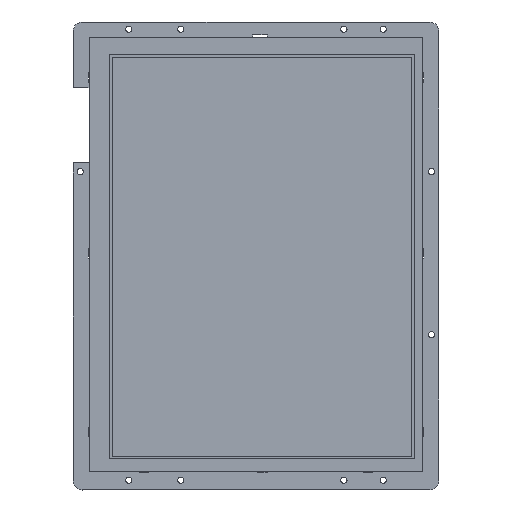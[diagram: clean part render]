
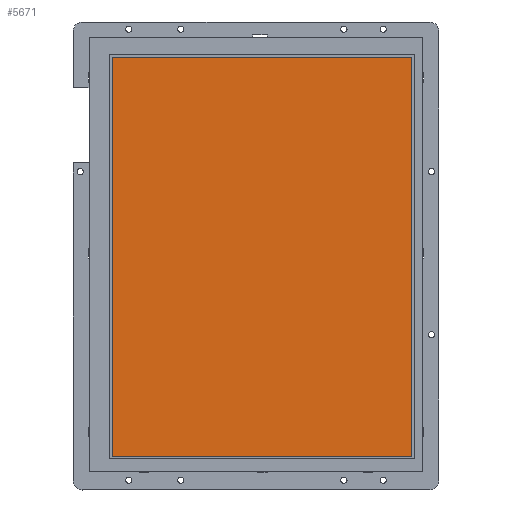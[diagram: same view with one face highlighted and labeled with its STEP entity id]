
A CAD part, top view. The second image highlights one B-rep face of the part: STEP entity #5671.
In plain terms, the highlighted planar face has unit normal (0, 0, 1).
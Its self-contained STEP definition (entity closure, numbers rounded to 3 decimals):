
#1765=DIRECTION('',(-1.,0.,0.));
#1766=VECTOR('',#1765,158.4);
#1767=CARTESIAN_POINT('',(82.341,104.439,9.55));
#1768=LINE('',#1767,#1766);
#1769=DIRECTION('',(0.,1.,0.));
#1770=VECTOR('',#1769,211.2);
#1771=CARTESIAN_POINT('',(82.341,-106.761,9.55));
#1772=LINE('',#1771,#1770);
#1773=DIRECTION('',(1.,0.,0.));
#1774=VECTOR('',#1773,158.4);
#1775=CARTESIAN_POINT('',(-76.06,-106.761,9.55));
#1776=LINE('',#1775,#1774);
#1777=DIRECTION('',(0.,-1.,0.));
#1778=VECTOR('',#1777,211.2);
#1779=CARTESIAN_POINT('',(-76.06,104.439,9.55));
#1780=LINE('',#1779,#1778);
#3093=CARTESIAN_POINT('',(82.341,104.439,9.55));
#3094=CARTESIAN_POINT('',(-76.06,104.439,9.55));
#3095=VERTEX_POINT('',#3093);
#3096=VERTEX_POINT('',#3094);
#3097=CARTESIAN_POINT('',(-76.06,-106.761,9.55));
#3098=VERTEX_POINT('',#3097);
#3099=CARTESIAN_POINT('',(82.341,-106.761,9.55));
#3100=VERTEX_POINT('',#3099);
#5660=CARTESIAN_POINT('',(-87.76,114.239,9.55));
#5661=DIRECTION('',(0.,0.,1.));
#5662=DIRECTION('',(0.,-1.,0.));
#5663=AXIS2_PLACEMENT_3D('',#5660,#5661,#5662);
#5664=PLANE('',#5663);
#5665=ORIENTED_EDGE('',*,*,#5612,.F.);
#5666=ORIENTED_EDGE('',*,*,#5627,.F.);
#5667=ORIENTED_EDGE('',*,*,#5641,.F.);
#5668=ORIENTED_EDGE('',*,*,#5654,.F.);
#5669=EDGE_LOOP('',(#5665,#5666,#5667,#5668));
#5670=FACE_OUTER_BOUND('',#5669,.F.);
#5612=EDGE_CURVE('',#3095,#3096,#1768,.T.);
#5627=EDGE_CURVE('',#3100,#3095,#1772,.T.);
#5641=EDGE_CURVE('',#3098,#3100,#1776,.T.);
#5654=EDGE_CURVE('',#3096,#3098,#1780,.T.);
#5671=ADVANCED_FACE('',(#5670),#5664,.T.);
